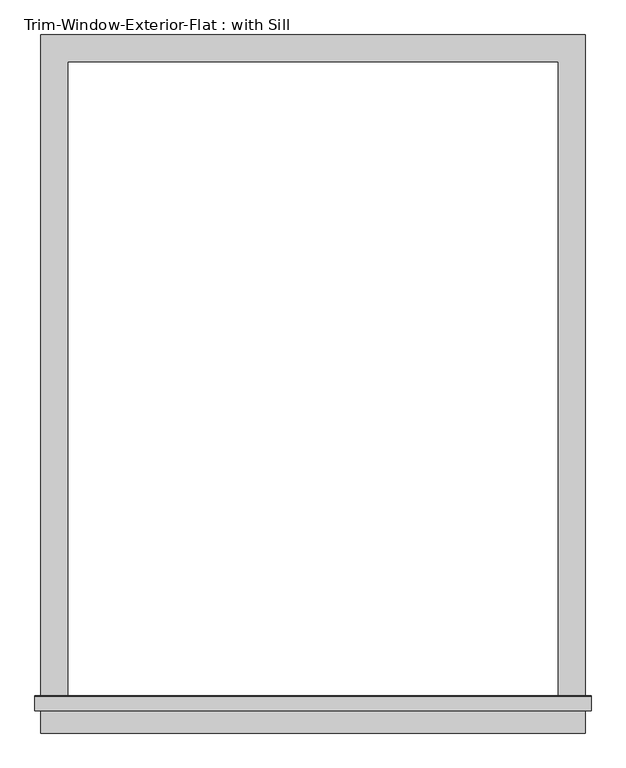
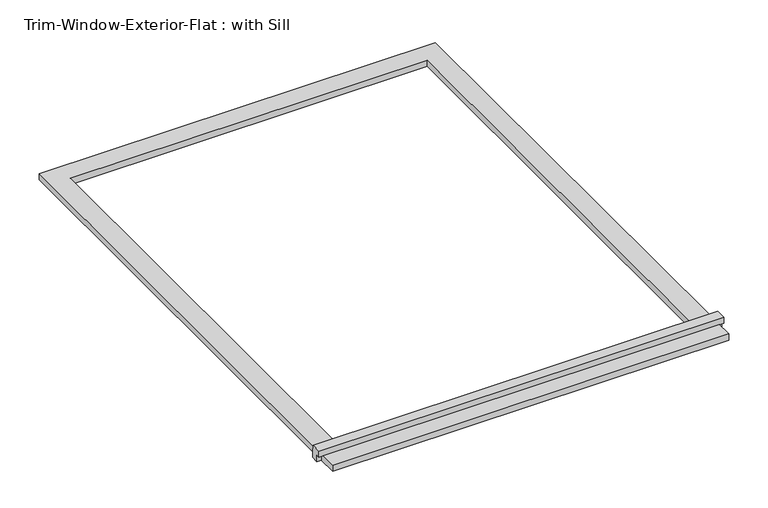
"""IFC4 building model written with IfcOpenShell, lengths in millimetres: proxy geometry, Trim-Window-Exterior-Flat : with Sill."""

from ifc_helpers import new_model, si_unit, frame, origin, origin_with_axes, place, context, project, spatial, polyline, outline, extrude, source, transform, mapped, element, save


def trim_window_exterior_flat_with_sill_4930676f(model_context):
    return source(origin(), model_context, "Body", "SweptSolid", [
        extrude(outline(polyline([(577.85, -1368.3823709), (577.85, -1425.5323709), (-577.85, -1425.5323709), (-577.85, -1368.3823709), (577.85, -1368.3823709)])), origin_with_axes(), (0.0, 0.0, 1.0), 19.05),
        extrude(outline(polyline([(-1377.95, 38.1), (-1348.6580645, 38.1), (-1346.2, 19.05), (-1346.2, 0.0), (-1368.3823709, 0.0), (-1368.3823709, 19.05), (-1377.95, 19.05), (-1377.95, 38.1)])), frame((-590.55, 0.0, 0.0), z_axis=(1.0, 0.0, 0.0), x_axis=(0.0, 1.0, 0.0)), (0.0, 0.0, 1.0), 1181.1),
        extrude(outline(polyline([(-577.85, 57.15), (577.85, 57.15), (577.85, -1346.2), (520.7, -1346.2), (520.7, 0.0), (-520.7, 0.0), (-520.7, -1346.2), (-577.85, -1346.2), (-577.85, 57.15)])), origin_with_axes(), (0.0, 0.0, 1.0), 19.05),
    ])


if __name__ == "__main__":
    model = new_model("IFC4")
    model_context = context("Model", 3, world=origin())
    ifc_project = project(units=[si_unit("LENGTHUNIT", "METRE", prefix="MILLI")], contexts=[model_context])
    site = spatial("IfcSite", under=ifc_project)
    building = spatial("IfcBuilding", under=site)
    placement = place(None, origin())
    trim_window_exterior_flat_with_sill_shape = trim_window_exterior_flat_with_sill_4930676f(model_context)
    element("IfcBuildingElementProxy", 1, Name="Trim-Window-Exterior-Flat : with Sill", ObjectType="Trim-Window-Exterior-Flat : with Sill", at=placement, inside=building, context=model_context, shape_type="MappedRepresentation", body=[
        mapped(trim_window_exterior_flat_with_sill_shape, transform((0.0, 0.0, 0.0), x_axis=(1.0, 0.0, 0.0), y_axis=(0.0, 1.0, 0.0), z_axis=(0.0, 0.0, 1.0))),
    ])
    save(model, "model.ifc")
